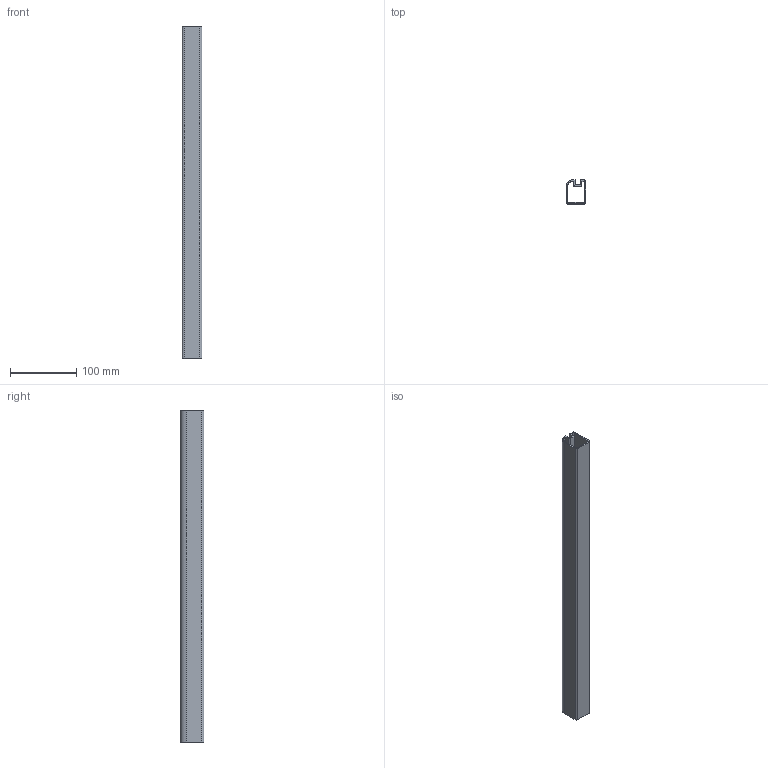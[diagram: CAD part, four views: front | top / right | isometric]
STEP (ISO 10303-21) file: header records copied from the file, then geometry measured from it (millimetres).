
FILE_DESCRIPTION (( 'STEP AP214' ), '1' );
FILE_NAME ('A40703.step', '2024-12-03T16:11:26', ( '' ), ( '' ), 'SwSTEP 2.0', 'SolidWorks 2023', '' );
FILE_SCHEMA (( 'AUTOMOTIVE_DESIGN' ));
Length unit declared in the file: millimetre
Products named in the file (1): A40703
Bounding box: 30 x 36 x 500 mm (x, y, z)
Volume: 132928.1 mm3; surface area: 132041.7 mm2
Topology: 1 solids, 1 shells, 31 faces, 87 edges, 58 vertices
Faces by surface type: plane 19, cylinder 12
Entity records: 1032 total; most frequent: CARTESIAN_POINT 177, DIRECTION 175, ORIENTED_EDGE 174, EDGE_CURVE 87, LINE 63, VECTOR 63, VERTEX_POINT 58, AXIS2_PLACEMENT_3D 56
